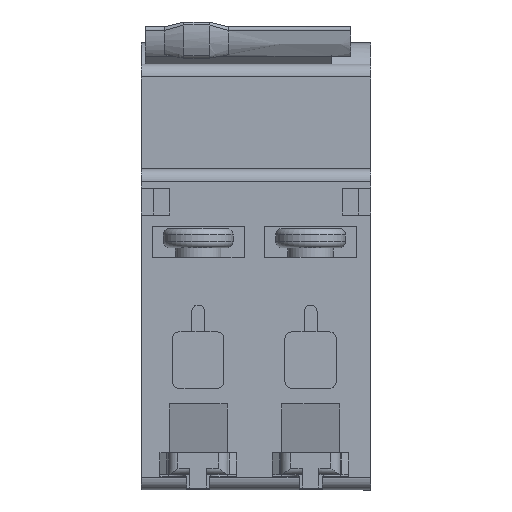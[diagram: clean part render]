
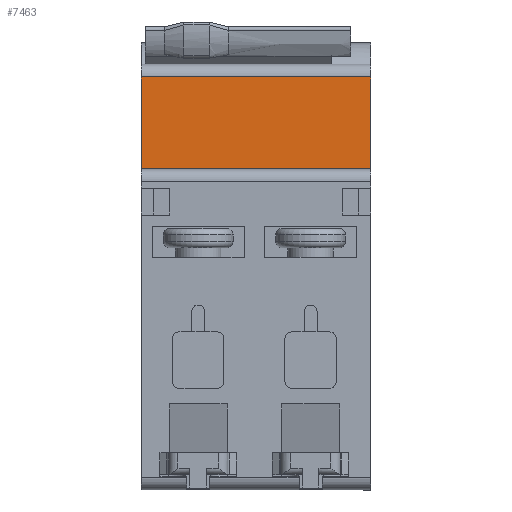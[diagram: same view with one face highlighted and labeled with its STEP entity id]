
A CAD part, front view. The second image highlights one B-rep face of the part: STEP entity #7463.
In plain terms, the highlighted planar face has unit normal (0, -1, 0).
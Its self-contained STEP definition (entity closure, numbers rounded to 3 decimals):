
#123 = VECTOR ( 'NONE', #11832, 1000. ) ;
#938 = CARTESIAN_POINT ( 'NONE',  ( -14.3, 18., 70.6 ) ) ;
#1451 = CARTESIAN_POINT ( 'NONE',  ( -14.3, 18., 70.6 ) ) ;
#1457 = LINE ( 'NONE', #9125, #13267 ) ;
#1867 = EDGE_CURVE ( 'NONE', #6628, #9340, #3349, .T. ) ;
#2181 = VERTEX_POINT ( 'NONE', #9837 ) ;
#2239 = DIRECTION ( 'NONE',  ( 0., -1., 0. ) ) ;
#2244 = ORIENTED_EDGE ( 'NONE', *, *, #1867, .F. ) ;
#3016 = ORIENTED_EDGE ( 'NONE', *, *, #10532, .F. ) ;
#3349 = LINE ( 'NONE', #7806, #6443 ) ;
#4168 = EDGE_CURVE ( 'NONE', #7656, #2181, #11288, .T. ) ;
#4499 = DIRECTION ( 'NONE',  ( 0., 0., -1. ) ) ;
#6393 = LINE ( 'NONE', #938, #123 ) ;
#6443 = VECTOR ( 'NONE', #4499, 1000. ) ;
#6628 = VERTEX_POINT ( 'NONE', #6976 ) ;
#6773 = DIRECTION ( 'NONE',  ( 1., 0., 0. ) ) ;
#6970 = VECTOR ( 'NONE', #7984, 1000. ) ;
#6976 = CARTESIAN_POINT ( 'NONE',  ( 0., 18., 70.6 ) ) ;
#7463 = ADVANCED_FACE ( 'NONE', ( #8891 ), #7795, .T. ) ;
#7656 = VERTEX_POINT ( 'NONE', #1451 ) ;
#7795 = PLANE ( 'NONE',  #10165 ) ;
#7806 = CARTESIAN_POINT ( 'NONE',  ( 0., 18., 17.5 ) ) ;
#7984 = DIRECTION ( 'NONE',  ( 0., 0., -1. ) ) ;
#8298 = EDGE_CURVE ( 'NONE', #7656, #6628, #6393, .T. ) ;
#8522 = EDGE_LOOP ( 'NONE', ( #10763, #3016, #2244, #10631 ) ) ;
#8891 = FACE_OUTER_BOUND ( 'NONE', #8522, .T. ) ;
#9125 = CARTESIAN_POINT ( 'NONE',  ( 0., 18., 34.9 ) ) ;
#9340 = VERTEX_POINT ( 'NONE', #12271 ) ;
#9837 = CARTESIAN_POINT ( 'NONE',  ( -14.3, 18., 34.9 ) ) ;
#10165 = AXIS2_PLACEMENT_3D ( 'NONE', #12204, #2239, #6773 ) ;
#10532 = EDGE_CURVE ( 'NONE', #9340, #2181, #1457, .T. ) ;
#10631 = ORIENTED_EDGE ( 'NONE', *, *, #8298, .F. ) ;
#10763 = ORIENTED_EDGE ( 'NONE', *, *, #4168, .T. ) ;
#11288 = LINE ( 'NONE', #13556, #6970 ) ;
#11398 = DIRECTION ( 'NONE',  ( -1., 0., 0. ) ) ;
#11832 = DIRECTION ( 'NONE',  ( 1., 0., 0. ) ) ;
#12204 = CARTESIAN_POINT ( 'NONE',  ( 0., 18., 17.5 ) ) ;
#12271 = CARTESIAN_POINT ( 'NONE',  ( 0., 18., 34.9 ) ) ;
#13267 = VECTOR ( 'NONE', #11398, 1000. ) ;
#13556 = CARTESIAN_POINT ( 'NONE',  ( -14.3, 18., 17.5 ) ) ;
